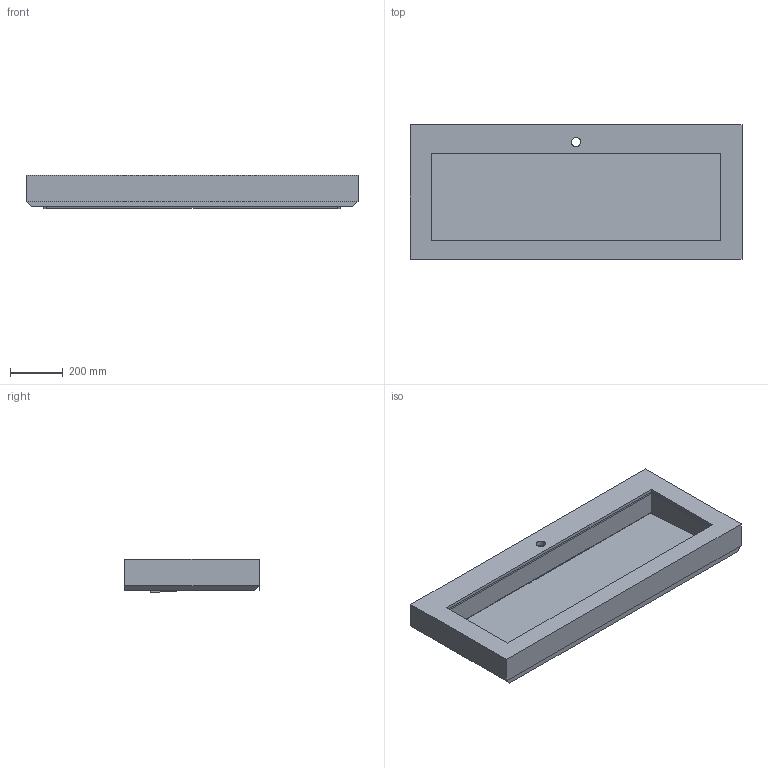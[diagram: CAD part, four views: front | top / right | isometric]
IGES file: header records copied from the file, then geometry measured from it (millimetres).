
Start section: Data from Parasolid IGES Translator 19.0.9, Copyright(c) 2006 Siemens PL M Software. All Rights Reserved.
Global section: file name: noorth-top-H 11,9 D 51,3 W 126_4965.igs; native system: By Siemens PLM Incorporated; preprocessor: XPlus GENERIC/IGES 19.0.9; author: Noname; organization: Noname; date: 20200603.114034; units: metre
Bounding box: 1260 x 512 x 125.71 mm (x, y, z)
Volume: 17462553.7 mm3; surface area: 2507093.3 mm2
Topology: 2 solids, 2 shells, 40 faces, 107 edges, 70 vertices
Faces by surface type: plane 39, cylinder 1
Full cylindrical faces by diameter (mm): 34.9 x1
